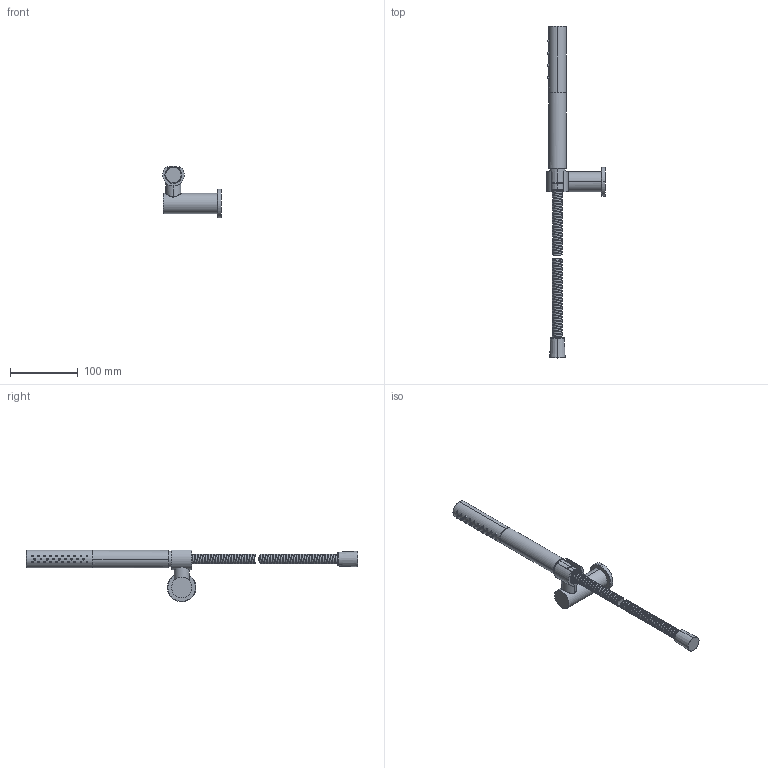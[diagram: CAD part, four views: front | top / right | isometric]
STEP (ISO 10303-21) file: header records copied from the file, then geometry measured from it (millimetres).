
FILE_DESCRIPTION((''),'2;1');
FILE_NAME('91380--00_SCRINKWRAP','2026-09-07T14:03:43',('clra1'),(''),'CREO PARAMETRIC BY PTC INC, 2022244','CREO PARAMETRIC BY PTC INC, 2022244','');
FILE_SCHEMA(('CONFIG_CONTROL_DESIGN'));
Length unit declared in the file: millimetre
Products named in the file (1): 91380--00_SCRINKWRAP
Bounding box: 87 x 490.6 x 76.3 mm (x, y, z)
Surface area: 59574.6 mm2 (no closed solid volume)
Topology: 0 solids, 49 shells, 379 faces, 1056 edges, 714 vertices
Faces by surface type: cylinder 141, torus 79, cone 62, bspline 48, plane 45, revolution 2, sphere 2
Entity records: 29923 total; most frequent: CARTESIAN_POINT 20842, ORIENTED_EDGE 1930, DIRECTION 1756, EDGE_CURVE 1052, AXIS2_PLACEMENT_3D 753, VERTEX_POINT 714, CIRCLE 424, B_SPLINE_CURVE_WITH_KNOTS 382
